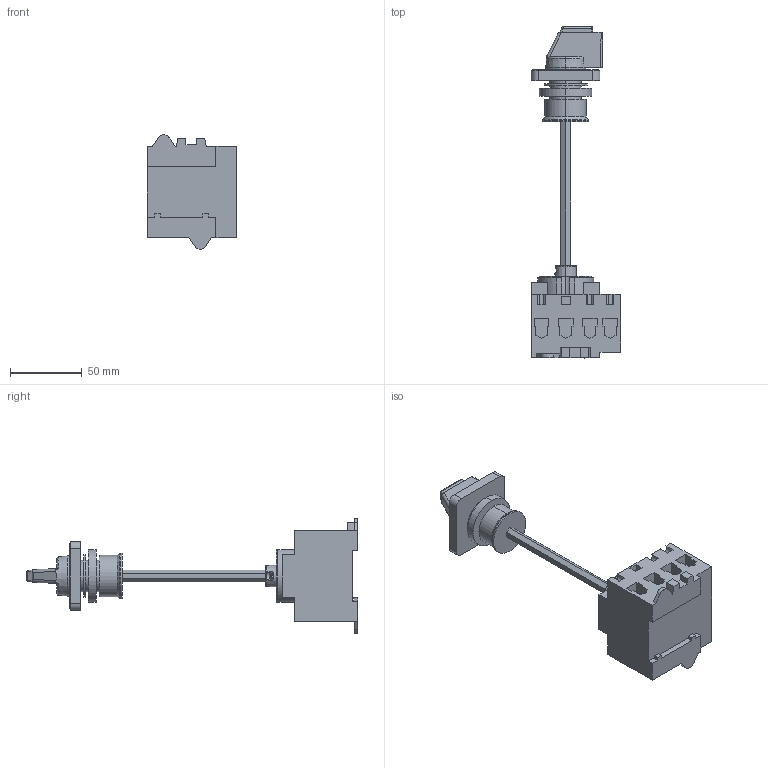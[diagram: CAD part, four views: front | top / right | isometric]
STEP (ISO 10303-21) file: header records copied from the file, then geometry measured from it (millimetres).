
FILE_DESCRIPTION (( 'STEP AP203' ), '1' );
FILE_NAME ('LTS63_80 VZVHN1 A4.STEP', '2014-05-13T13:01:24', ( '' ), ( '' ), 'SwSTEP 2.0', 'SolidWorks 2014', '' );
FILE_SCHEMA (( 'CONFIG_CONTROL_DESIGN' ));
Length unit declared in the file: millimetre
Products named in the file (5): LTS63_80 VZVHN1 A4; LTS63 VZV A4_Schaltkörper; 8184; Achse TK-LT_100_300; TK2Z H1
Assembly tree (4 placements, depth 2):
  LTS63_80 VZVHN1 A4
    LTS63 VZV A4_Schaltkörper
    8184
    Achse TK-LT_100_300
    TK2Z H1
Bounding box: 62.5 x 232.1 x 80 mm (x, y, z)
Volume: 220047.1 mm3; surface area: 49059 mm2
Topology: 4 solids, 4 shells, 462 faces, 1190 edges, 768 vertices
Faces by surface type: plane 273, cylinder 89, bspline 50, cone 40, torus 10
Entity records: 17060 total; most frequent: CARTESIAN_POINT 5557, ORIENTED_EDGE 2372, DIRECTION 2126, EDGE_CURVE 1186, LINE 774, VECTOR 774, VERTEX_POINT 768, AXIS2_PLACEMENT_3D 676
